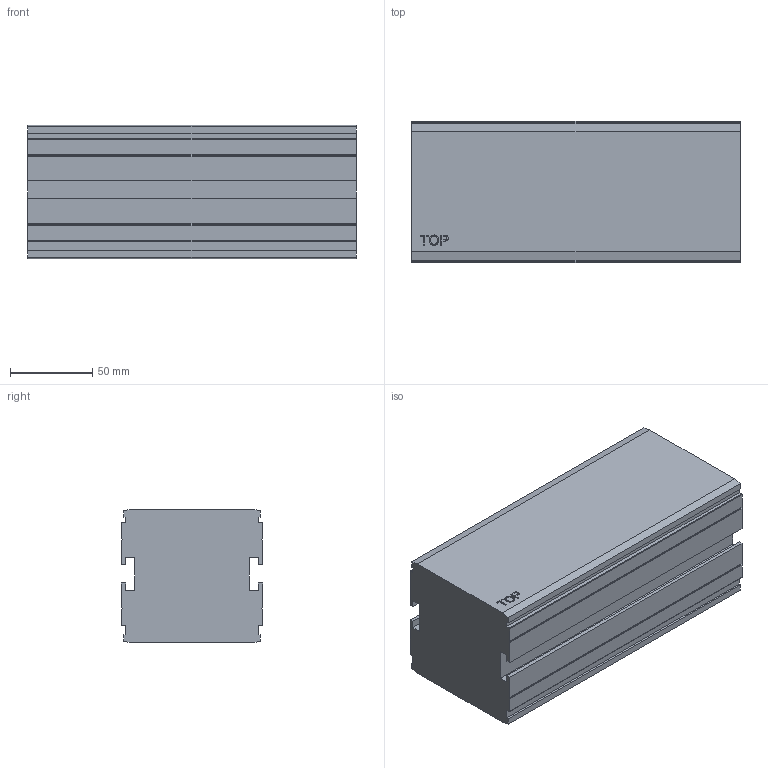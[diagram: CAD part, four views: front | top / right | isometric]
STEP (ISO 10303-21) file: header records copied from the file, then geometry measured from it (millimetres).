
FILE_DESCRIPTION((''),'2;1');
FILE_NAME('C:\Vault Klient\Projekt\Koncept konstruktion\Serie 830 Balk\830-1000.stp','2009-11-27T08:08:44',('Mathias'),(''),'Autodesk Inventor 2010','Autodesk Inventor 2010','');
FILE_SCHEMA(('AUTOMOTIVE_DESIGN { 1 0 10303 214 1 1 1 1 }'));
Length unit declared in the file: millimetre
Products named in the file (1): 830-1000
Bounding box: 200 x 86 x 81.5 mm (x, y, z)
Volume: 1329374.1 mm3; surface area: 95021.2 mm2
Topology: 1 solids, 1 shells, 93 faces, 258 edges, 172 vertices
Faces by surface type: plane 75, bspline 14, cylinder 4
Entity records: 3067 total; most frequent: CARTESIAN_POINT 718, ORIENTED_EDGE 516, DIRECTION 398, EDGE_CURVE 258, VECTOR 222, LINE 222, VERTEX_POINT 172, EDGE_LOOP 98
